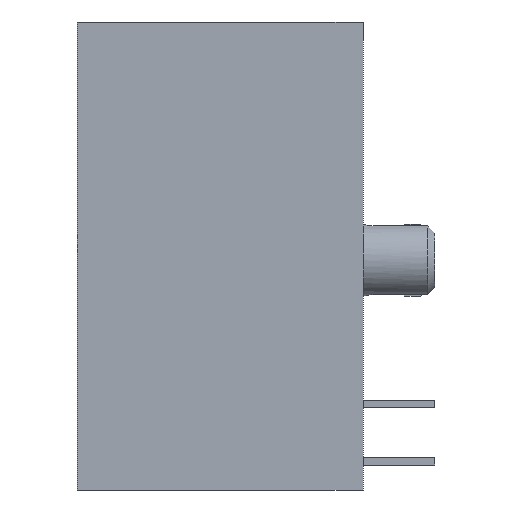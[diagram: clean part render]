
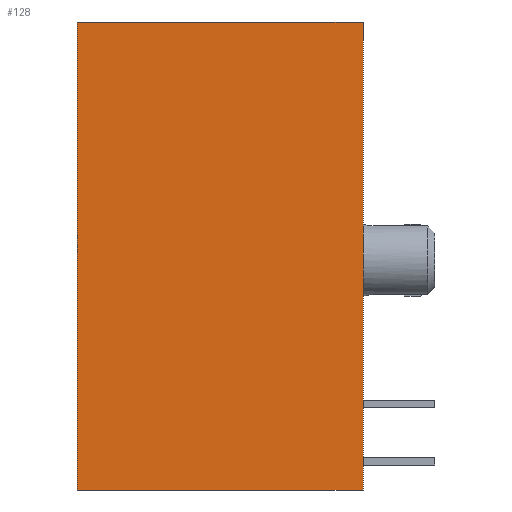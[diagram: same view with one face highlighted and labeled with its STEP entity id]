
A CAD part, left-side view. The second image highlights one B-rep face of the part: STEP entity #128.
In plain terms, the highlighted planar face has unit normal (-1, 0, 0).
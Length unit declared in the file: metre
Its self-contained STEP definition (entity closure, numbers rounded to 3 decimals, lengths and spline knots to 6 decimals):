
#128 = ADVANCED_FACE( '', ( #300 ), #301, .F. );
#300 = FACE_OUTER_BOUND( '', #472, .T. );
#301 = PLANE( '', #473 );
#472 = EDGE_LOOP( '', ( #1138, #1139, #1140, #1141 ) );
#473 = AXIS2_PLACEMENT_3D( '', #1142, #1143, #1144 );
#1138 = ORIENTED_EDGE( '', *, *, #1252, .T. );
#1139 = ORIENTED_EDGE( '', *, *, #1286, .F. );
#1140 = ORIENTED_EDGE( '', *, *, #1311, .T. );
#1141 = ORIENTED_EDGE( '', *, *, #1223, .T. );
#1142 = CARTESIAN_POINT( '', ( -0.005652, 0.006325, -0.010351 ) );
#1143 = DIRECTION( '', ( 1., 0., 0. ) );
#1144 = DIRECTION( '', ( 0., 1., 0. ) );
#1223 = EDGE_CURVE( '', #1504, #1502, #1505, .T. );
#1252 = EDGE_CURVE( '', #1502, #1553, #1555, .T. );
#1286 = EDGE_CURVE( '', #1606, #1553, #1608, .T. );
#1311 = EDGE_CURVE( '', #1606, #1504, #1644, .T. );
#1502 = VERTEX_POINT( '', #2051 );
#1504 = VERTEX_POINT( '', #2054 );
#1505 = LINE( '', #2055, #2056 );
#1553 = VERTEX_POINT( '', #2139 );
#1555 = LINE( '', #2142, #2143 );
#1606 = VERTEX_POINT( '', #2244 );
#1608 = LINE( '', #2247, #2248 );
#1644 = LINE( '', #2308, #2309 );
#2051 = CARTESIAN_POINT( '', ( -0.005652, 0.012649, 0. ) );
#2054 = CARTESIAN_POINT( '', ( -0.005652, 0., 0. ) );
#2055 = CARTESIAN_POINT( '', ( -0.005652, 0., 0. ) );
#2056 = VECTOR( '', #2513, 1. );
#2139 = CARTESIAN_POINT( '', ( -0.005652, 0.012649, -0.020701 ) );
#2142 = CARTESIAN_POINT( '', ( -0.005652, 0.012649, 0. ) );
#2143 = VECTOR( '', #2540, 1. );
#2244 = CARTESIAN_POINT( '', ( -0.005652, 0., -0.020701 ) );
#2247 = CARTESIAN_POINT( '', ( -0.005652, 0., -0.020701 ) );
#2248 = VECTOR( '', #2583, 1. );
#2308 = CARTESIAN_POINT( '', ( -0.005652, 0., -0.020701 ) );
#2309 = VECTOR( '', #2608, 1. );
#2513 = DIRECTION( '', ( 0., 1., 0. ) );
#2540 = DIRECTION( '', ( 0., 0., -1. ) );
#2583 = DIRECTION( '', ( 0., 1., 0. ) );
#2608 = DIRECTION( '', ( 0., 0., 1. ) );
